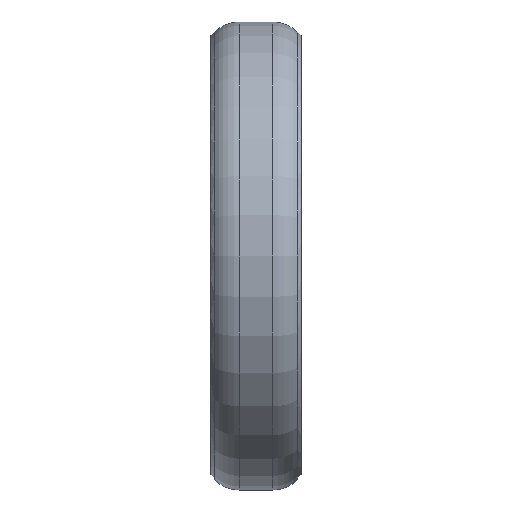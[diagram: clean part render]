
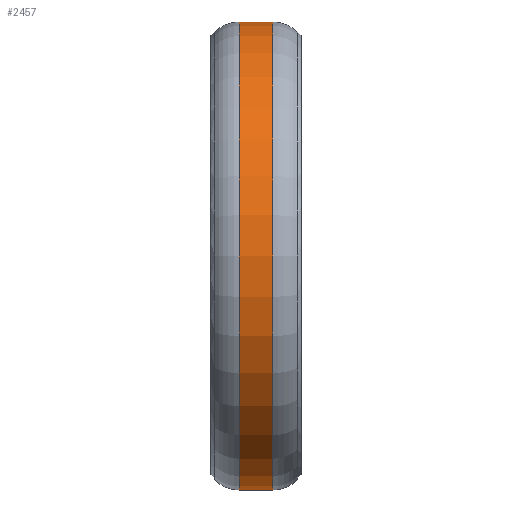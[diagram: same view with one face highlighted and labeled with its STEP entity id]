
A CAD part, left-side view. The second image highlights one B-rep face of the part: STEP entity #2457.
In plain terms, the highlighted cylindrical face has radius 17.145 mm (diameter 34.29 mm), a partial arc.
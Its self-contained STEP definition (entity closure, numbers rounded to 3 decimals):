
#22 = VERTEX_POINT('',#23);
#23 = CARTESIAN_POINT('',(0.,9.489,-17.145));
#24 = VERTEX_POINT('',#25);
#25 = CARTESIAN_POINT('',(0.,9.489,17.145));
#67 = CYLINDRICAL_SURFACE('',#68,17.145);
#68 = AXIS2_PLACEMENT_3D('',#69,#70,#71);
#69 = CARTESIAN_POINT('',(0.,11.557,0.));
#70 = DIRECTION('',(0.,-1.,0.));
#71 = DIRECTION('',(0.,0.,-1.));
#94 = TOROIDAL_SURFACE('',#95,14.605,2.54);
#95 = AXIS2_PLACEMENT_3D('',#96,#97,#98);
#96 = CARTESIAN_POINT('',(0.,9.489,0.));
#97 = DIRECTION('',(0.,1.,0.));
#98 = DIRECTION('',(0.,0.,1.));
#202 = VERTEX_POINT('',#203);
#203 = CARTESIAN_POINT('',(0.,7.021,17.145));
#204 = VERTEX_POINT('',#205);
#205 = CARTESIAN_POINT('',(0.,7.021,-17.145));
#269 = TOROIDAL_SURFACE('',#270,14.605,2.54);
#270 = AXIS2_PLACEMENT_3D('',#271,#272,#273);
#271 = CARTESIAN_POINT('',(0.,7.021,0.));
#272 = DIRECTION('',(0.,-1.,0.));
#273 = DIRECTION('',(0.,0.,-1.));
#584 = EDGE_CURVE('',#24,#202,#585,.T.);
#585 = SURFACE_CURVE('',#586,(#590,#596),.PCURVE_S1.);
#586 = LINE('',#587,#588);
#587 = CARTESIAN_POINT('',(0.,11.557,17.145));
#588 = VECTOR('',#589,1.);
#589 = DIRECTION('',(0.,-1.,0.));
#590 = PCURVE('',#67,#591);
#591 = DEFINITIONAL_REPRESENTATION('',(#592),#595);
#592 = B_SPLINE_CURVE_WITH_KNOTS('',1,(#593,#594),.UNSPECIFIED.,.F.,.F.,
  (2,2),(2.068,4.536),.PIECEWISE_BEZIER_KNOTS.);
#593 = CARTESIAN_POINT('',(3.142,2.068));
#594 = CARTESIAN_POINT('',(3.142,4.536));
#595 = ( GEOMETRIC_REPRESENTATION_CONTEXT(2) 
PARAMETRIC_REPRESENTATION_CONTEXT() REPRESENTATION_CONTEXT('2D SPACE',''
  ) );
#596 = PCURVE('',#597,#602);
#597 = CYLINDRICAL_SURFACE('',#598,17.145);
#598 = AXIS2_PLACEMENT_3D('',#599,#600,#601);
#599 = CARTESIAN_POINT('',(0.,11.557,0.));
#600 = DIRECTION('',(0.,-1.,0.));
#601 = DIRECTION('',(0.,0.,-1.));
#602 = DEFINITIONAL_REPRESENTATION('',(#603),#606);
#603 = B_SPLINE_CURVE_WITH_KNOTS('',1,(#604,#605),.UNSPECIFIED.,.F.,.F.,
  (2,2),(2.068,4.536),.PIECEWISE_BEZIER_KNOTS.);
#604 = CARTESIAN_POINT('',(3.142,2.068));
#605 = CARTESIAN_POINT('',(3.142,4.536));
#606 = ( GEOMETRIC_REPRESENTATION_CONTEXT(2) 
PARAMETRIC_REPRESENTATION_CONTEXT() REPRESENTATION_CONTEXT('2D SPACE',''
  ) );
#609 = EDGE_CURVE('',#22,#204,#610,.T.);
#610 = SURFACE_CURVE('',#611,(#615,#621),.PCURVE_S1.);
#611 = LINE('',#612,#613);
#612 = CARTESIAN_POINT('',(0.,11.557,-17.145));
#613 = VECTOR('',#614,1.);
#614 = DIRECTION('',(0.,-1.,0.));
#615 = PCURVE('',#67,#616);
#616 = DEFINITIONAL_REPRESENTATION('',(#617),#620);
#617 = B_SPLINE_CURVE_WITH_KNOTS('',1,(#618,#619),.UNSPECIFIED.,.F.,.F.,
  (2,2),(2.068,4.536),.PIECEWISE_BEZIER_KNOTS.);
#618 = CARTESIAN_POINT('',(0.,2.068));
#619 = CARTESIAN_POINT('',(0.,4.536));
#620 = ( GEOMETRIC_REPRESENTATION_CONTEXT(2) 
PARAMETRIC_REPRESENTATION_CONTEXT() REPRESENTATION_CONTEXT('2D SPACE',''
  ) );
#621 = PCURVE('',#597,#622);
#622 = DEFINITIONAL_REPRESENTATION('',(#623),#626);
#623 = B_SPLINE_CURVE_WITH_KNOTS('',1,(#624,#625),.UNSPECIFIED.,.F.,.F.,
  (2,2),(2.068,4.536),.PIECEWISE_BEZIER_KNOTS.);
#624 = CARTESIAN_POINT('',(6.283,2.068));
#625 = CARTESIAN_POINT('',(6.283,4.536));
#626 = ( GEOMETRIC_REPRESENTATION_CONTEXT(2) 
PARAMETRIC_REPRESENTATION_CONTEXT() REPRESENTATION_CONTEXT('2D SPACE',''
  ) );
#2457 = ADVANCED_FACE('',(#2458),#597,.T.);
#2458 = FACE_BOUND('',#2459,.T.);
#2459 = EDGE_LOOP('',(#2460,#2461,#2504,#2505));
#2460 = ORIENTED_EDGE('',*,*,#584,.F.);
#2461 = ORIENTED_EDGE('',*,*,#2462,.T.);
#2462 = EDGE_CURVE('',#24,#22,#2463,.T.);
#2463 = SURFACE_CURVE('',#2464,(#2469,#2475),.PCURVE_S1.);
#2464 = CIRCLE('',#2465,17.145);
#2465 = AXIS2_PLACEMENT_3D('',#2466,#2467,#2468);
#2466 = CARTESIAN_POINT('',(0.,9.489,0.));
#2467 = DIRECTION('',(0.,-1.,0.));
#2468 = DIRECTION('',(0.,0.,1.));
#2469 = PCURVE('',#597,#2470);
#2470 = DEFINITIONAL_REPRESENTATION('',(#2471),#2474);
#2471 = B_SPLINE_CURVE_WITH_KNOTS('',1,(#2472,#2473),.UNSPECIFIED.,.F.,
  .F.,(2,2),(0.,3.142),.PIECEWISE_BEZIER_KNOTS.);
#2472 = CARTESIAN_POINT('',(3.142,2.068));
#2473 = CARTESIAN_POINT('',(6.283,2.068));
#2474 = ( GEOMETRIC_REPRESENTATION_CONTEXT(2) 
PARAMETRIC_REPRESENTATION_CONTEXT() REPRESENTATION_CONTEXT('2D SPACE',''
  ) );
#2475 = PCURVE('',#94,#2476);
#2476 = DEFINITIONAL_REPRESENTATION('',(#2477),#2503);
#2477 = B_SPLINE_CURVE_WITH_KNOTS('',3,(#2478,#2479,#2480,#2481,#2482,
    #2483,#2484,#2485,#2486,#2487,#2488,#2489,#2490,#2491,#2492,#2493,
    #2494,#2495,#2496,#2497,#2498,#2499,#2500,#2501,#2502),
  .UNSPECIFIED.,.F.,.F.,(4,1,1,1,1,1,1,1,1,1,1,1,1,1,1,1,1,1,1,1,1,1,4),
  (0.,0.143,0.286,0.428,0.571,
    0.714,0.857,1.,1.142,
    1.285,1.428,1.571,1.714,
    1.856,1.999,2.142,2.285,
    2.428,2.57,2.713,2.856,
    2.999,3.142),.QUASI_UNIFORM_KNOTS.);
#2478 = CARTESIAN_POINT('',(6.283,0.));
#2479 = CARTESIAN_POINT('',(6.236,0.));
#2480 = CARTESIAN_POINT('',(6.14,0.));
#2481 = CARTESIAN_POINT('',(5.998,0.));
#2482 = CARTESIAN_POINT('',(5.855,0.));
#2483 = CARTESIAN_POINT('',(5.712,0.));
#2484 = CARTESIAN_POINT('',(5.569,0.));
#2485 = CARTESIAN_POINT('',(5.426,0.));
#2486 = CARTESIAN_POINT('',(5.284,0.));
#2487 = CARTESIAN_POINT('',(5.141,0.));
#2488 = CARTESIAN_POINT('',(4.998,0.));
#2489 = CARTESIAN_POINT('',(4.855,0.));
#2490 = CARTESIAN_POINT('',(4.712,0.));
#2491 = CARTESIAN_POINT('',(4.57,0.));
#2492 = CARTESIAN_POINT('',(4.427,0.));
#2493 = CARTESIAN_POINT('',(4.284,0.));
#2494 = CARTESIAN_POINT('',(4.141,0.));
#2495 = CARTESIAN_POINT('',(3.998,0.));
#2496 = CARTESIAN_POINT('',(3.856,0.));
#2497 = CARTESIAN_POINT('',(3.713,0.));
#2498 = CARTESIAN_POINT('',(3.57,0.));
#2499 = CARTESIAN_POINT('',(3.427,0.));
#2500 = CARTESIAN_POINT('',(3.284,0.));
#2501 = CARTESIAN_POINT('',(3.189,0.));
#2502 = CARTESIAN_POINT('',(3.142,0.));
#2503 = ( GEOMETRIC_REPRESENTATION_CONTEXT(2) 
PARAMETRIC_REPRESENTATION_CONTEXT() REPRESENTATION_CONTEXT('2D SPACE',''
  ) );
#2504 = ORIENTED_EDGE('',*,*,#609,.T.);
#2505 = ORIENTED_EDGE('',*,*,#2506,.T.);
#2506 = EDGE_CURVE('',#204,#202,#2507,.T.);
#2507 = SURFACE_CURVE('',#2508,(#2513,#2519),.PCURVE_S1.);
#2508 = CIRCLE('',#2509,17.145);
#2509 = AXIS2_PLACEMENT_3D('',#2510,#2511,#2512);
#2510 = CARTESIAN_POINT('',(0.,7.021,0.));
#2511 = DIRECTION('',(0.,1.,0.));
#2512 = DIRECTION('',(0.,0.,-1.));
#2513 = PCURVE('',#597,#2514);
#2514 = DEFINITIONAL_REPRESENTATION('',(#2515),#2518);
#2515 = B_SPLINE_CURVE_WITH_KNOTS('',1,(#2516,#2517),.UNSPECIFIED.,.F.,
  .F.,(2,2),(0.,3.142),.PIECEWISE_BEZIER_KNOTS.);
#2516 = CARTESIAN_POINT('',(6.283,4.536));
#2517 = CARTESIAN_POINT('',(3.142,4.536));
#2518 = ( GEOMETRIC_REPRESENTATION_CONTEXT(2) 
PARAMETRIC_REPRESENTATION_CONTEXT() REPRESENTATION_CONTEXT('2D SPACE',''
  ) );
#2519 = PCURVE('',#269,#2520);
#2520 = DEFINITIONAL_REPRESENTATION('',(#2521),#2547);
#2521 = B_SPLINE_CURVE_WITH_KNOTS('',3,(#2522,#2523,#2524,#2525,#2526,
    #2527,#2528,#2529,#2530,#2531,#2532,#2533,#2534,#2535,#2536,#2537,
    #2538,#2539,#2540,#2541,#2542,#2543,#2544,#2545,#2546),
  .UNSPECIFIED.,.F.,.F.,(4,1,1,1,1,1,1,1,1,1,1,1,1,1,1,1,1,1,1,1,1,1,4),
  (0.,0.143,0.286,0.428,0.571,
    0.714,0.857,1.,1.142,
    1.285,1.428,1.571,1.714,
    1.856,1.999,2.142,2.285,
    2.428,2.57,2.713,2.856,
    2.999,3.142),.QUASI_UNIFORM_KNOTS.);
#2522 = CARTESIAN_POINT('',(6.283,0.));
#2523 = CARTESIAN_POINT('',(6.236,0.));
#2524 = CARTESIAN_POINT('',(6.14,0.));
#2525 = CARTESIAN_POINT('',(5.998,0.));
#2526 = CARTESIAN_POINT('',(5.855,0.));
#2527 = CARTESIAN_POINT('',(5.712,0.));
#2528 = CARTESIAN_POINT('',(5.569,0.));
#2529 = CARTESIAN_POINT('',(5.426,0.));
#2530 = CARTESIAN_POINT('',(5.284,0.));
#2531 = CARTESIAN_POINT('',(5.141,0.));
#2532 = CARTESIAN_POINT('',(4.998,0.));
#2533 = CARTESIAN_POINT('',(4.855,0.));
#2534 = CARTESIAN_POINT('',(4.712,0.));
#2535 = CARTESIAN_POINT('',(4.57,0.));
#2536 = CARTESIAN_POINT('',(4.427,0.));
#2537 = CARTESIAN_POINT('',(4.284,0.));
#2538 = CARTESIAN_POINT('',(4.141,0.));
#2539 = CARTESIAN_POINT('',(3.998,0.));
#2540 = CARTESIAN_POINT('',(3.856,0.));
#2541 = CARTESIAN_POINT('',(3.713,0.));
#2542 = CARTESIAN_POINT('',(3.57,0.));
#2543 = CARTESIAN_POINT('',(3.427,0.));
#2544 = CARTESIAN_POINT('',(3.284,0.));
#2545 = CARTESIAN_POINT('',(3.189,0.));
#2546 = CARTESIAN_POINT('',(3.142,0.));
#2547 = ( GEOMETRIC_REPRESENTATION_CONTEXT(2) 
PARAMETRIC_REPRESENTATION_CONTEXT() REPRESENTATION_CONTEXT('2D SPACE',''
  ) );
